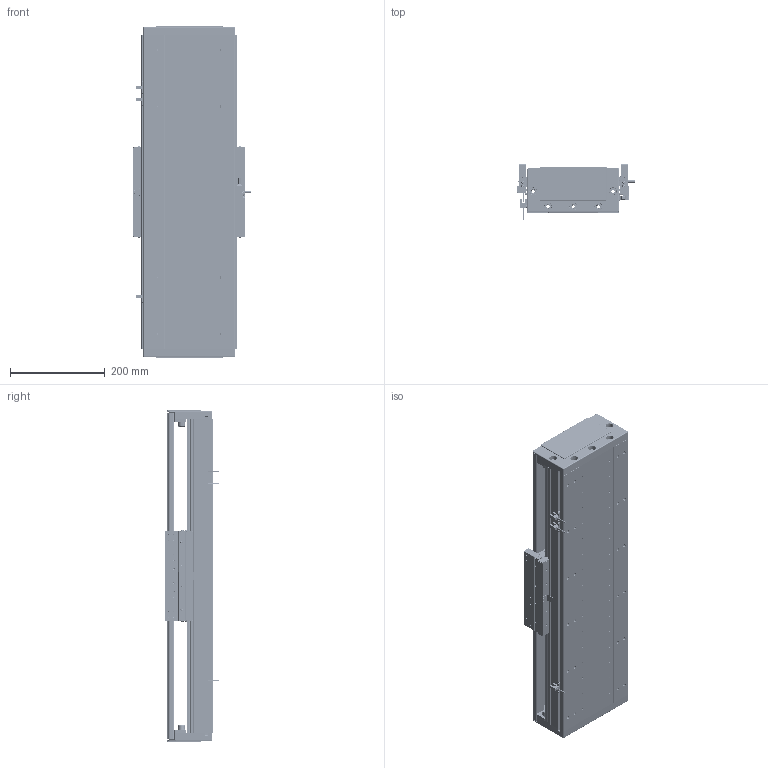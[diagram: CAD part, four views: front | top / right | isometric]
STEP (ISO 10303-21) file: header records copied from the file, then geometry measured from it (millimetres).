
FILE_DESCRIPTION (( 'STEP AP203' ), '1' );
FILE_NAME ('DA-C195-C2-T420-C010-0.2 眻盄萇儂.STEP', '2025-08-15T01:00:01', ( '' ), ( '' ), 'SwSTEP 2.0', 'SolidWorks 2019', '' );
FILE_SCHEMA (( 'CONFIG_CONTROL_DESIGN' ));
Length unit declared in the file: millimetre
Products named in the file (12): IU-CU195-L 菁釱絳寢; DA-C195-C2-T420-C010-0.2 眻盄萇儂; 66156-0001-003-00 裔啣; IU-CU195-L-00 菁釱(L660); LMT黍杅芛; DA95-HXJ-00 遣喳砎蝶; CU195-C2賑輸-俋楷; PM-T45ㄗ侂狟ㄘ; DA195-DG-H-00  端盖（压铸镂空版）; MS200 棠掑喜S315-T240; 葩璃 DA95-GT-T-00; 66156-0001-005-00 光电感应片(默认)
Assembly tree (20 placements, depth 3):
  DA-C195-C2-T420-C010-0.2 眻盄萇儂
    IU-CU195-L 菁釱絳寢
      IU-CU195-L-00 菁釱(L660)
      葩璃 DA95-GT-T-00  x4
    LMT黍杅芛
    MS200 棠掑喜S315-T240
    PM-T45ㄗ侂狟ㄘ  x3
    66156-0001-005-00 光电感应片(默认)
    DA195-DG-H-00  端盖（压铸镂空版）  x2
    DA95-HXJ-00 遣喳砎蝶  x4
    66156-0001-003-00 裔啣
    CU195-C2賑輸-俋楷
Bounding box: 248 x 115.6 x 700 mm (x, y, z)
Volume: 5509224.2 mm3; surface area: 1558407.3 mm2
Topology: 58 solids, 130 shells, 5055 faces, 12668 edges, 7657 vertices
Faces by surface type: cylinder 2077, plane 1628, bspline 710, cone 560, torus 44, sphere 36
Entity records: 135085 total; most frequent: CARTESIAN_POINT 41243, ORIENTED_EDGE 19390, DIRECTION 18968, EDGE_CURVE 9695, AXIS2_PLACEMENT_3D 7043, VERTEX_POINT 6087, VECTOR 4882, LINE 4882
